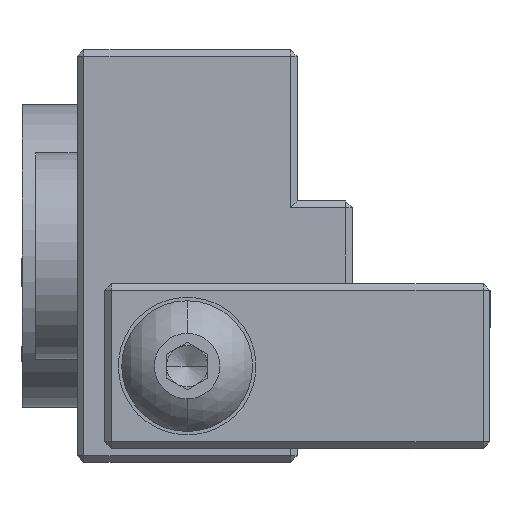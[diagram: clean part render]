
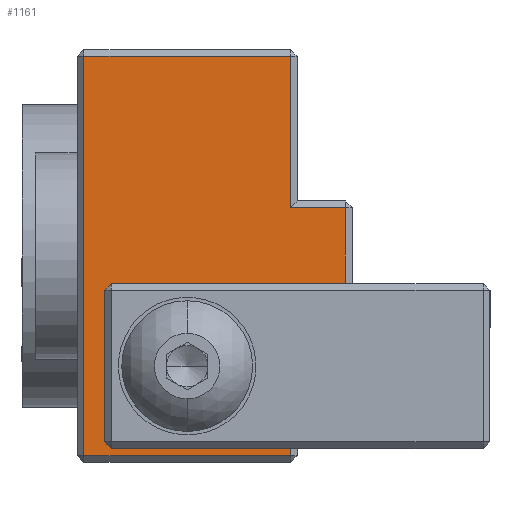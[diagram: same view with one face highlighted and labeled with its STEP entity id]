
A CAD part, left-side view. The second image highlights one B-rep face of the part: STEP entity #1161.
In plain terms, the highlighted planar face has unit normal (-1, 0, 0).
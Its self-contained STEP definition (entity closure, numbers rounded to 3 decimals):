
#248 = CARTESIAN_POINT ( 'NONE',  ( -30., 20., -14.5 ) ) ;
#330 = LINE ( 'NONE', #4460, #5550 ) ;
#472 = DIRECTION ( 'NONE',  ( 0., 0., 1. ) ) ;
#542 = DIRECTION ( 'NONE',  ( 0., 1., 0. ) ) ;
#551 = CARTESIAN_POINT ( 'NONE',  ( -30., 4.5, -14.5 ) ) ;
#572 = VECTOR ( 'NONE', #2898, 1000. ) ;
#1128 = EDGE_CURVE ( 'NONE', #5378, #3145, #5907, .T. ) ;
#1161 = ADVANCED_FACE ( 'NONE', ( #3217, #2041 ), #4099, .F. ) ;
#1163 = CARTESIAN_POINT ( 'NONE',  ( -30., 20., -3.5 ) ) ;
#1288 = VERTEX_POINT ( 'NONE', #5974 ) ;
#1347 = EDGE_CURVE ( 'NONE', #2444, #3471, #6147, .T. ) ;
#1563 = ORIENTED_EDGE ( 'NONE', *, *, #1128, .T. ) ;
#1582 = EDGE_CURVE ( 'NONE', #3471, #3876, #2293, .T. ) ;
#1686 = ORIENTED_EDGE ( 'NONE', *, *, #1347, .T. ) ;
#1694 = DIRECTION ( 'NONE',  ( 0., -1., 0. ) ) ;
#1878 = VECTOR ( 'NONE', #4151, 1000. ) ;
#1921 = LINE ( 'NONE', #4564, #572 ) ;
#2041 = FACE_OUTER_BOUND ( 'NONE', #3708, .T. ) ;
#2086 = AXIS2_PLACEMENT_3D ( 'NONE', #4498, #6014, #6306 ) ;
#2293 = LINE ( 'NONE', #4444, #6175 ) ;
#2315 = DIRECTION ( 'NONE',  ( 0., 0., 1. ) ) ;
#2383 = CARTESIAN_POINT ( 'NONE',  ( -30., 19.5, 15. ) ) ;
#2419 = VECTOR ( 'NONE', #6129, 1000. ) ;
#2444 = VERTEX_POINT ( 'NONE', #3354 ) ;
#2491 = CARTESIAN_POINT ( 'NONE',  ( -30., 20., 15. ) ) ;
#2602 = CARTESIAN_POINT ( 'NONE',  ( -30., 4.5, 3.5 ) ) ;
#2632 = CIRCLE ( 'NONE', #2086, 2.1 ) ;
#2739 = EDGE_CURVE ( 'NONE', #4208, #2444, #6559, .T. ) ;
#2806 = CARTESIAN_POINT ( 'NONE',  ( -30., 12., -8. ) ) ;
#2846 = VECTOR ( 'NONE', #5408, 1000. ) ;
#2898 = DIRECTION ( 'NONE',  ( 0., 1., 0. ) ) ;
#2971 = CARTESIAN_POINT ( 'NONE',  ( -30., 19.5, 14.5 ) ) ;
#2997 = DIRECTION ( 'NONE',  ( 0., 0., 1. ) ) ;
#3050 = CARTESIAN_POINT ( 'NONE',  ( -30., 4.5, -3.5 ) ) ;
#3123 = AXIS2_PLACEMENT_3D ( 'NONE', #2491, #3325, #4774 ) ;
#3145 = VERTEX_POINT ( 'NONE', #6049 ) ;
#3182 = VERTEX_POINT ( 'NONE', #3936 ) ;
#3217 = FACE_BOUND ( 'NONE', #3750, .T. ) ;
#3325 = DIRECTION ( 'NONE',  ( 1., 0., 0. ) ) ;
#3354 = CARTESIAN_POINT ( 'NONE',  ( -30., 19.5, -14.5 ) ) ;
#3393 = AXIS2_PLACEMENT_3D ( 'NONE', #2806, #3990, #2315 ) ;
#3471 = VERTEX_POINT ( 'NONE', #551 ) ;
#3515 = ORIENTED_EDGE ( 'NONE', *, *, #5587, .T. ) ;
#3708 = EDGE_LOOP ( 'NONE', ( #3515, #6088, #4888, #1563, #6316, #6038, #1686, #5557 ) ) ;
#3750 = EDGE_LOOP ( 'NONE', ( #4653, #6124 ) ) ;
#3876 = VERTEX_POINT ( 'NONE', #3050 ) ;
#3936 = CARTESIAN_POINT ( 'NONE',  ( -30., 12., -10.1 ) ) ;
#3969 = LINE ( 'NONE', #3989, #5318 ) ;
#3989 = CARTESIAN_POINT ( 'NONE',  ( -30., 0.5, 4. ) ) ;
#3990 = DIRECTION ( 'NONE',  ( -1., 0., 0. ) ) ;
#4099 = PLANE ( 'NONE',  #3123 ) ;
#4151 = DIRECTION ( 'NONE',  ( 0., 0., 1. ) ) ;
#4208 = VERTEX_POINT ( 'NONE', #2971 ) ;
#4259 = EDGE_CURVE ( 'NONE', #5762, #5378, #1921, .T. ) ;
#4444 = CARTESIAN_POINT ( 'NONE',  ( -30., 4.5, 15. ) ) ;
#4460 = CARTESIAN_POINT ( 'NONE',  ( -30., 20., 14.5 ) ) ;
#4470 = CARTESIAN_POINT ( 'NONE',  ( -30., 4.5, 15. ) ) ;
#4498 = CARTESIAN_POINT ( 'NONE',  ( -30., 12., -8. ) ) ;
#4523 = VERTEX_POINT ( 'NONE', #6011 ) ;
#4564 = CARTESIAN_POINT ( 'NONE',  ( -30., 20., 3.5 ) ) ;
#4653 = ORIENTED_EDGE ( 'NONE', *, *, #5513, .F. ) ;
#4707 = EDGE_CURVE ( 'NONE', #1288, #5762, #3969, .T. ) ;
#4711 = EDGE_CURVE ( 'NONE', #3182, #4523, #2632, .T. ) ;
#4774 = DIRECTION ( 'NONE',  ( 0., 0., -1. ) ) ;
#4879 = LINE ( 'NONE', #1163, #5047 ) ;
#4888 = ORIENTED_EDGE ( 'NONE', *, *, #4259, .T. ) ;
#4904 = EDGE_CURVE ( 'NONE', #3145, #4208, #330, .T. ) ;
#5047 = VECTOR ( 'NONE', #1694, 1000. ) ;
#5318 = VECTOR ( 'NONE', #2997, 1000. ) ;
#5343 = CARTESIAN_POINT ( 'NONE',  ( -30., 0.5, 3.5 ) ) ;
#5378 = VERTEX_POINT ( 'NONE', #2602 ) ;
#5408 = DIRECTION ( 'NONE',  ( 0., 0., -1. ) ) ;
#5513 = EDGE_CURVE ( 'NONE', #4523, #3182, #6535, .T. ) ;
#5550 = VECTOR ( 'NONE', #542, 1000. ) ;
#5557 = ORIENTED_EDGE ( 'NONE', *, *, #1582, .T. ) ;
#5587 = EDGE_CURVE ( 'NONE', #3876, #1288, #4879, .T. ) ;
#5762 = VERTEX_POINT ( 'NONE', #5343 ) ;
#5907 = LINE ( 'NONE', #4470, #1878 ) ;
#5974 = CARTESIAN_POINT ( 'NONE',  ( -30., 0.5, -3.5 ) ) ;
#6011 = CARTESIAN_POINT ( 'NONE',  ( -30., 12., -5.9 ) ) ;
#6014 = DIRECTION ( 'NONE',  ( -1., 0., 0. ) ) ;
#6038 = ORIENTED_EDGE ( 'NONE', *, *, #2739, .T. ) ;
#6049 = CARTESIAN_POINT ( 'NONE',  ( -30., 4.5, 14.5 ) ) ;
#6088 = ORIENTED_EDGE ( 'NONE', *, *, #4707, .T. ) ;
#6124 = ORIENTED_EDGE ( 'NONE', *, *, #4711, .F. ) ;
#6129 = DIRECTION ( 'NONE',  ( 0., -1., 0. ) ) ;
#6147 = LINE ( 'NONE', #248, #2419 ) ;
#6175 = VECTOR ( 'NONE', #472, 1000. ) ;
#6306 = DIRECTION ( 'NONE',  ( 0., 0., 1. ) ) ;
#6316 = ORIENTED_EDGE ( 'NONE', *, *, #4904, .T. ) ;
#6535 = CIRCLE ( 'NONE', #3393, 2.1 ) ;
#6559 = LINE ( 'NONE', #2383, #2846 ) ;
